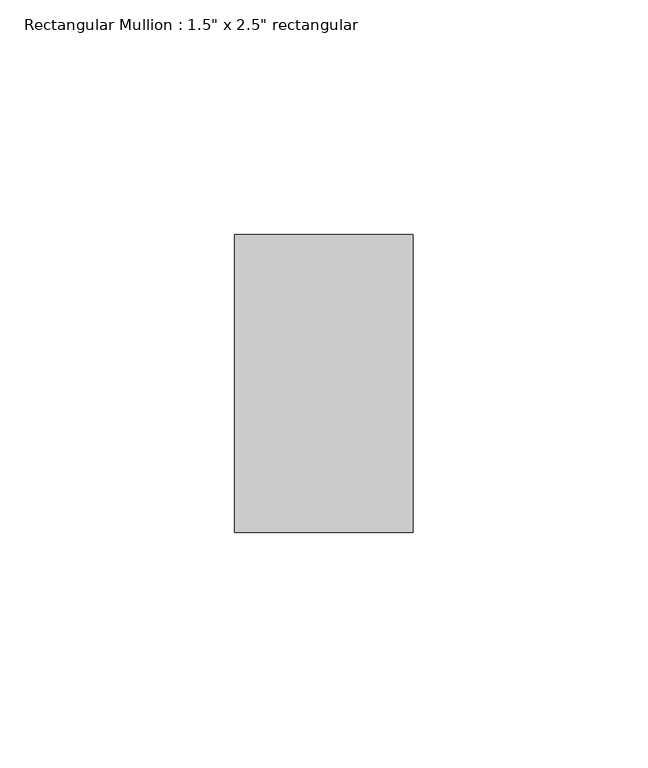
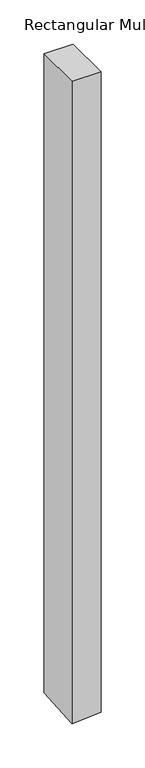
"""IFC4 building model written with IfcOpenShell, lengths in millimetres: member geometry."""

from ifc_helpers import new_model, si_unit, origin, place, context, project, spatial, faceted_brep, source, transform, mapped, element, save


def member_dc8b4db6(model_context):
    return source(origin(), model_context, "Body", "Brep", [
        faceted_brep([(0.0, 31.75, 0.0), (-38.1, 31.75, 0.0), (-38.1, -31.75, 0.0), (0.0, -31.75, 0.0), (0.0, 31.75, -883.0818813), (-38.1, 31.75, -885.8019023), (-38.1, -31.75, -890.353377), (0.0, -31.75, -887.633356)], [[[0, 1, 2, 3]], [[1, 0, 4, 5]], [[2, 1, 5, 6]], [[3, 2, 6, 7]], [[0, 3, 7, 4]], [[4, 7, 6, 5]]]),
    ])


if __name__ == "__main__":
    model = new_model("IFC4")
    model_context = context("Model", 3, world=origin())
    ifc_project = project(units=[si_unit("LENGTHUNIT", "METRE", prefix="MILLI")], contexts=[model_context])
    site = spatial("IfcSite", under=ifc_project)
    building = spatial("IfcBuilding", under=site)
    placement = place(None, origin())
    member_shape = member_dc8b4db6(model_context)
    element("IfcMember", 1, ObjectType="Rectangular Mullion : 1.5\" x 2.5\" rectangular", at=placement, inside=building, context=model_context, shape_type="MappedRepresentation", body=[
        mapped(member_shape, transform((0.0, 0.0, 0.0), x_axis=(1.0, 0.0, 0.0), y_axis=(0.0, 1.0, 0.0), z_axis=(0.0, 0.0, 1.0))),
    ])
    save(model, "model.ifc")
